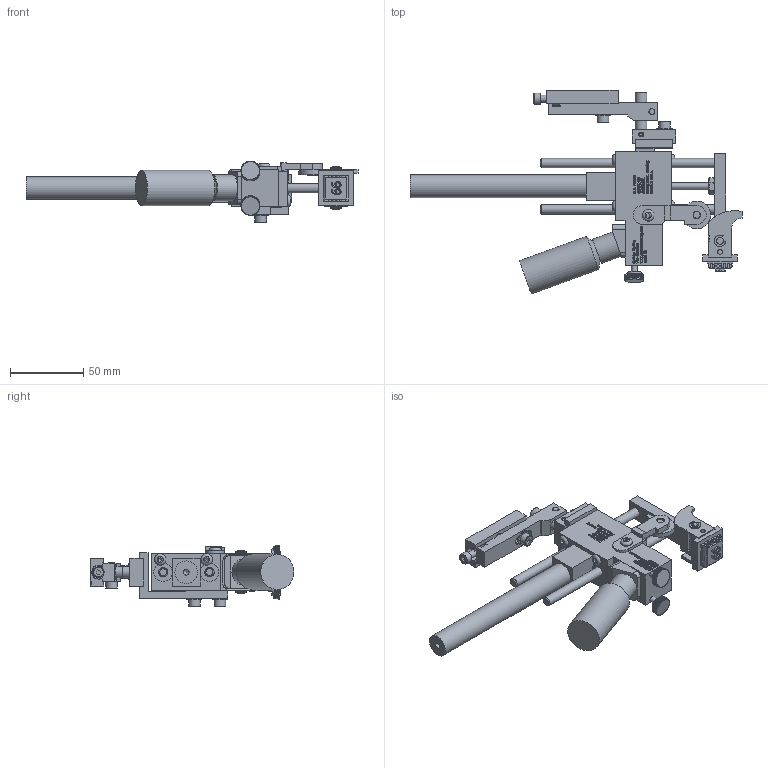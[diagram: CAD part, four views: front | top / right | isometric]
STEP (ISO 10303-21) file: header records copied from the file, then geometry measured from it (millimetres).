
FILE_DESCRIPTION((''),'2;1');
FILE_NAME('C:\Documents and Settings\Ron\My Documents\Inventor\Sprinter Drawing\Machines in Inventor\Model 66\Type\Ext Str\E1\Brkt\90\Model 66 ES1 type 90 DEG w brkt mod 2012.stp','2012-02-29T08:09:56',('Ron'),(''),'Autodesk Inventor 2011','Autodesk Inventor 2011','');
FILE_SCHEMA(('AUTOMOTIVE_DESIGN { 1 0 10303 214 1 1 1 1 }'));
Length unit declared in the file: inch
Products named in the file (43): Model 66 ES1 type 90 DEG w brkt mod 2012; 66 Frame Body Assy Std w brkt; 66 Frame Body; Hexagon Socket Button Head Cap Screw - Inch 8 - 32 x 1/4; Hexagon Socket Head Cap Screw - Inch No. 8 - 32 UNC - 1 1/2; 66 Linear Bearing; 66 Ink; 66 INK BOTTLE; 66 Ink Pad; 66 Wheel Bracket; 8-32x0.25 Hexagon Socket Button Head Cap Screw ANSI/ASME B18.3; 44 Cam Wheel; 44 Wheel Retainer; 10 Ink Resevior Lock Screw; Model 66 Bracket; Model 66 RPB; rpb4; rpb3; rpb-1; rpb2; No. 10-24x0.88 Hexagon socket head cap screw ANSI/ASME B18.3; Type B - Plain Washer (Inch) No. 10 - narrow - Type B; 66 Machine Mounting Pivot Bracket; Pin - Hardened Ground Machine Dowel (Inch) 1/8 x 3/8; Rod Carrier 90 deg E1; Model 66, E1 .25 x 5; Rod Carrier 90 deg; 66 Rod Carrier; Type A - Hexagon Socket Set Screw - Cup Point - Inch 8-32 UNC x 0.32; 66 PIVOT SHAFT; 66 PIVOT SHAFT LOCKING RING; 23 66 invert block; AS 1112 (4)  - Metric M6; 66 Spring; 19 Rod Carrier Set Screws; 44 & up Removable Marking Head Securing Post; 66 type clip; 66 Marking Head Plate; 66-28; Part # 28 - number 66 stamp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
Assembly tree (60 placements, depth 5):
  Model 66 ES1 type 90 DEG w brkt mod 2012
    66 Frame Body Assy Std w brkt
      66 Frame Body
      Hexagon Socket Button Head Cap Screw - Inch 8 - 32 x 1/4  x4
      Hexagon Socket Head Cap Screw - Inch No. 8 - 32 UNC - 1 1/2  x2
      66 Linear Bearing  x2
      66 Ink
      66 INK BOTTLE
      66 Ink Pad
      66 Wheel Bracket
      8-32x0.25 Hexagon Socket Button Head Cap Screw ANSI/ASME B18.3
      44 Cam Wheel
      44 Wheel Retainer
      10 Ink Resevior Lock Screw  x2
      Model 66 Bracket
        Model 66 RPB
          rpb4
          rpb3
          rpb-1
          rpb2
          No. 10-24x0.88 Hexagon socket head cap screw ANSI/ASME B18.3  x5
          Type B - Plain Washer (Inch) No. 10 - narrow - Type B  x4
          66 Machine Mounting Pivot Bracket
          Pin - Hardened Ground Machine Dowel (Inch) 1/8 x 3/8  x2
    Rod Carrier 90 deg E1
      Model 66, E1 .25 x 5  x2
      Rod Carrier 90 deg
        66 Rod Carrier
        Type A - Hexagon Socket Set Screw - Cup Point - Inch 8-32 UNC x 0.32
        66 PIVOT SHAFT
        66 PIVOT SHAFT LOCKING RING  x2
        23 66 invert block
        AS 1112 (4)  - Metric M6
        66 Spring
        19 Rod Carrier Set Screws  x2
        44 & up Removable Marking Head Securing Post
        66 type clip
          66 Marking Head Plate
          44 & up Removable Marking Head Securing Post
          66-28
          Part # 28 - number 66 stamp
        Hexagon Socket Set Screw - Flat Point - Inch 6-32 UNC x 0.45
    E1 90 deg
    10-32 PORTS DECAL
Bounding box: 227.28 x 139.56 x 42.07 mm (x, y, z)
Volume: 172615 mm3; surface area: 88589.1 mm2
Topology: 427 solids, 427 shells, 6316 faces, 15463 edges, 9558 vertices
Faces by surface type: plane 4356, bspline 1301, cylinder 555, cone 81, torus 23
Full cylindrical faces by diameter (mm): 1.575 x1, 2.54 x2, 2.642 x2, 3.175 x4, 3.2 x1, 3.302 x12, 3.505 x1, 3.658 x1, 3.683 x2, 3.962 x12, 4.064 x2, 4.166 x10, 4.318 x2, 4.699 x3, 4.75 x3, 4.775 x2, 4.826 x8, 4.864 x2, 4.917 x1, 5.08 x2, 5.156 x7, 5.182 x1, 5.359 x1, 5.556 x1, 6.325 x2, 6.35 x7, 6.426 x1, 6.604 x1, 6.858 x2, 7.353 x4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
Entity records: 150148 total; most frequent: CARTESIAN_POINT 44656, ORIENTED_EDGE 23348, DIRECTION 16757, EDGE_CURVE 11674, VECTOR 8277, LINE 8277, VERTEX_POINT 7484, EDGE_LOOP 5214
